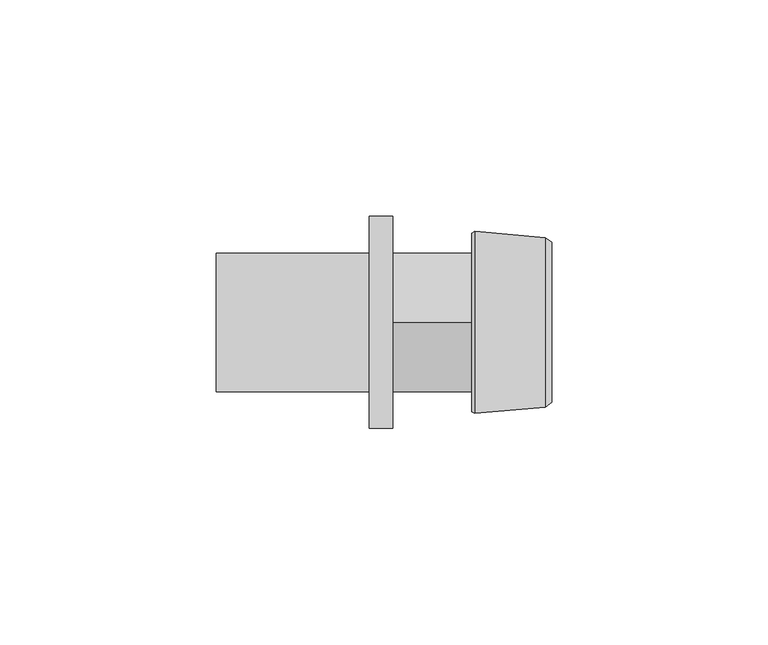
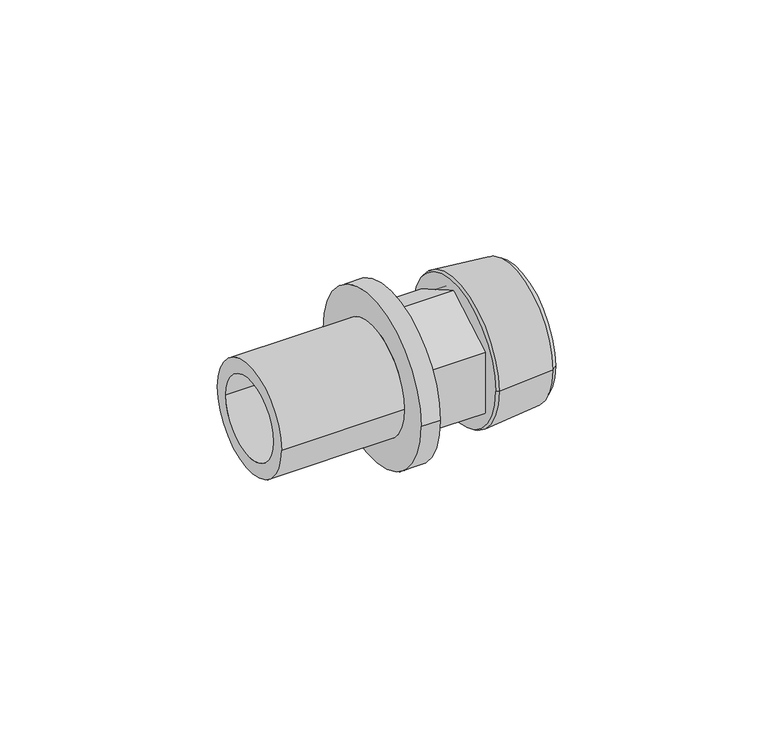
"""IFC4 building model written with IfcOpenShell, lengths in millimetres: pipe fitting geometry, RAUTITAN_Adapter_external_thread LX+G_LX : RTI A external LX+G_LX DE."""

from ifc_helpers import new_model, si_unit, frame, origin, place, context, project, spatial, polyline, circle_curve, outline, extrude, source, transform, mapped, element, save
from ifc_brep_helpers import plane_surface, cylinder_surface, revolved_surface, advanced_brep


def pipe_fitting_5de1917f(model_context):
    return source(origin(), model_context, "Body", "SolidModel", [
        advanced_brep(
        [(-5.5, 16.0, 0.0), (-5.5, -16.0, 0.0), (-40.83, -16.0, 0.0), (-40.83, 16.0, 0.0), (0.0, 24.5, 0.0), (0.0, -24.5, 0.0), (-5.5, -24.5, 0.0), (-5.5, 24.5, 0.0), (-40.83, 11.75, 0.0), (-40.83, -11.75, 0.0), (0.0, -11.75, 0.0), (0.0, 11.75, 0.0)],
        [
            (0, 1, circle_curve(frame((-5.5, 0.0, 0.0), z_axis=(-1.0, 0.0, 0.0), x_axis=(0.0, -1.0, 0.0)), 16.0)),
            (1, 2),
            (2, 3, circle_curve(frame((-40.83, 0.0, 0.0), z_axis=(1.0, 0.0, 0.0), x_axis=(0.0, -1.0, 0.0)), 16.0)),
            (3, 0),
            (4, 5, circle_curve(frame((0.0, 0.0, 0.0), z_axis=(-1.0, 0.0, 0.0), x_axis=(0.0, -1.0, 0.0)), 24.5)),
            (5, 6),
            (6, 7, circle_curve(frame((-5.5, 0.0, 0.0), z_axis=(1.0, 0.0, 0.0), x_axis=(0.0, -1.0, 0.0)), 24.5)),
            (7, 4),
            (8, 9, circle_curve(frame((-40.83, 0.0, 0.0), z_axis=(-1.0, 0.0, 0.0), x_axis=(0.0, -1.0, 0.0)), 11.75)),
            (9, 10),
            (10, 11, circle_curve(frame((0.0, 0.0, 0.0), z_axis=(1.0, 0.0, 0.0), x_axis=(0.0, -1.0, 0.0)), 11.75)),
            (11, 8),
            (2, 3, circle_curve(frame((-40.83, 0.0, 0.0), z_axis=(-1.0, 0.0, 0.0), x_axis=(0.0, 1.0, 0.0)), 16.0)),
            (8, 9, circle_curve(frame((-40.83, 0.0, 0.0), z_axis=(1.0, 0.0, 0.0), x_axis=(0.0, 1.0, 0.0)), 11.75)),
            (1, 0, circle_curve(frame((-5.5, 0.0, 0.0), z_axis=(-1.0, 0.0, 0.0), x_axis=(0.0, 1.0, 0.0)), 16.0)),
            (6, 7, circle_curve(frame((-5.5, 0.0, 0.0), z_axis=(-1.0, 0.0, 0.0), x_axis=(0.0, 1.0, 0.0)), 24.5)),
            (5, 4, circle_curve(frame((0.0, 0.0, 0.0), z_axis=(-1.0, 0.0, 0.0), x_axis=(0.0, 1.0, 0.0)), 24.5)),
            (10, 11, circle_curve(frame((0.0, 0.0, 0.0), z_axis=(-1.0, 0.0, 0.0), x_axis=(0.0, 1.0, 0.0)), 11.75)),
        ],
        [
            cylinder_surface(frame((0.0, 0.0, 0.0), z_axis=(1.0, 0.0, 0.0), x_axis=(0.0, -1.0, 0.0)), 16.0),
            cylinder_surface(frame((0.0, 0.0, 0.0), z_axis=(1.0, 0.0, 0.0), x_axis=(0.0, -1.0, 0.0)), 24.5),
            revolved_surface(polyline([(0.0, -11.75, 0.0), (-40.83, -11.75, 0.0)]), (0.0, 0.0, 0.0), (1.0, 0.0, 0.0)),
            plane_surface(frame((-40.83, 0.0, 0.0), z_axis=(-1.0, 0.0, 0.0), x_axis=(0.0, 1.0, 0.0))),
            cylinder_surface(frame((0.0, 0.0, 0.0), z_axis=(1.0, 0.0, 0.0), x_axis=(0.0, 1.0, 0.0)), 16.0),
            plane_surface(frame((-5.5, 0.0, 0.0), z_axis=(-1.0, 0.0, 0.0), x_axis=(0.0, 1.0, 0.0))),
            cylinder_surface(frame((0.0, 0.0, 0.0), z_axis=(1.0, 0.0, 0.0), x_axis=(0.0, 1.0, 0.0)), 24.5),
            plane_surface(frame((0.0, 0.0, 0.0), z_axis=(1.0, 0.0, 0.0), x_axis=(0.0, 1.0, 0.0))),
            revolved_surface(polyline([(0.0, 11.75, 0.0), (-40.83, 11.75, 0.0)]), (0.0, 0.0, 0.0), (1.0, 0.0, 0.0)),
        ],
        [
            (0, [[1, 2, 3, 4]]),
            (1, [[5, 6, 7, 8]]),
            (2, [[9, 10, 11, 12]]),
            (3, [[13, -3], [14, -9]]),
            (4, [[15, -4, -13, -2]]),
            (5, [[16, -7], [-15, -1]]),
            (6, [[17, -8, -16, -6]]),
            (7, [[-17, -5], [18, -11]]),
            (8, [[-14, -12, -18, -10]]),
        ],
    ),
        advanced_brep(
        [(19.2732803, 16.0, 0.0), (19.2732803, -16.0, 0.0), (36.67, -16.0, 0.0), (36.67, 16.0, 0.0), (18.17, 14.8967197, 0.0), (18.17, -14.8967197, 0.0), (18.9106902, 21.045, 0.0), (18.9106902, -21.045, 0.0), (18.17, -20.625, 0.0), (18.17, 20.625, 0.0), (35.1700007, 19.6, 0.0), (35.1700007, -19.6, 0.0), (36.67, 18.495, 0.0), (36.67, -18.495, 0.0)],
        [
            (0, 1, circle_curve(frame((19.2732803, 0.0, 0.0), z_axis=(-1.0, 0.0, 0.0), x_axis=(0.0, -1.0, 0.0)), 16.0)),
            (1, 2),
            (2, 3, circle_curve(frame((36.67, 0.0, 0.0), z_axis=(1.0, 0.0, 0.0), x_axis=(0.0, -1.0, 0.0)), 16.0)),
            (3, 0),
            (4, 5, circle_curve(frame((18.17, 0.0, 0.0), z_axis=(-1.0, 0.0, 0.0), x_axis=(0.0, -1.0, 0.0)), 14.8967197)),
            (5, 1),
            (0, 4),
            (6, 7, circle_curve(frame((18.9106902, 0.0, 0.0), z_axis=(-1.0, 0.0, 0.0), x_axis=(0.0, -1.0, 0.0)), 21.045)),
            (7, 8),
            (8, 9, circle_curve(frame((18.17, 0.0, 0.0), z_axis=(1.0, 0.0, 0.0), x_axis=(0.0, -1.0, 0.0)), 20.625)),
            (9, 6),
            (10, 11, circle_curve(frame((35.1700007, 0.0, 0.0), z_axis=(-1.0, 0.0, 0.0), x_axis=(0.0, -1.0, 0.0)), 19.6)),
            (11, 7),
            (6, 10),
            (12, 13, circle_curve(frame((36.67, 0.0, 0.0), z_axis=(-1.0, 0.0, 0.0), x_axis=(0.0, -1.0, 0.0)), 18.495)),
            (13, 11),
            (10, 12),
            (1, 0, circle_curve(frame((19.2732803, 0.0, 0.0), z_axis=(-1.0, 0.0, 0.0), x_axis=(0.0, 1.0, 0.0)), 16.0)),
            (3, 2, circle_curve(frame((36.67, 0.0, 0.0), z_axis=(1.0, 0.0, 0.0), x_axis=(0.0, 1.0, 0.0)), 16.0)),
            (5, 4, circle_curve(frame((18.17, 0.0, 0.0), z_axis=(-1.0, 0.0, 0.0), x_axis=(0.0, 1.0, 0.0)), 14.8967197)),
            (8, 9, circle_curve(frame((18.17, 0.0, 0.0), z_axis=(-1.0, 0.0, 0.0), x_axis=(0.0, 1.0, 0.0)), 20.625)),
            (7, 6, circle_curve(frame((18.9106902, 0.0, 0.0), z_axis=(-1.0, 0.0, 0.0), x_axis=(0.0, 1.0, 0.0)), 21.045)),
            (11, 10, circle_curve(frame((35.1700007, 0.0, 0.0), z_axis=(-1.0, 0.0, 0.0), x_axis=(0.0, 1.0, 0.0)), 19.6)),
            (13, 12, circle_curve(frame((36.67, 0.0, 0.0), z_axis=(-1.0, 0.0, 0.0), x_axis=(0.0, 1.0, 0.0)), 18.495)),
        ],
        [
            revolved_surface(polyline([(36.67, -16.0, 0.0), (19.2732803, -16.0, 0.0)]), (0.0, 0.0, 0.0), (1.0, 0.0, 0.0)),
            revolved_surface(polyline([(19.2732803, -16.0, 0.0), (18.17, -14.8967197, 0.0)]), (0.0, 0.0, 0.0), (1.0, 0.0, 0.0)),
            revolved_surface(polyline([(18.17, -20.625, 0.0), (18.9106902, -21.045, 0.0)]), (0.0, 0.0, 0.0), (1.0, 0.0, 0.0)),
            revolved_surface(polyline([(18.9106902, -21.045, 0.0), (35.1700007, -19.6, 0.0)]), (0.0, 0.0, 0.0), (1.0, 0.0, 0.0)),
            revolved_surface(polyline([(35.1700007, -19.6, 0.0), (36.67, -18.495, 0.0)]), (0.0, 0.0, 0.0), (1.0, 0.0, 0.0)),
            revolved_surface(polyline([(36.67, 16.0, 0.0), (19.2732803, 16.0, 0.0)]), (0.0, 0.0, 0.0), (1.0, 0.0, 0.0)),
            revolved_surface(polyline([(19.2732803, 16.0, 0.0), (18.17, 14.8967197, 0.0)]), (0.0, 0.0, 0.0), (1.0, 0.0, 0.0)),
            plane_surface(frame((18.17, 0.0, 0.0), z_axis=(-1.0, 0.0, 0.0), x_axis=(0.0, 1.0, 0.0))),
            revolved_surface(polyline([(18.17, 20.625, 0.0), (18.9106902, 21.045, 0.0)]), (0.0, 0.0, 0.0), (1.0, 0.0, 0.0)),
            revolved_surface(polyline([(18.9106902, 21.045, 0.0), (35.1700007, 19.6, 0.0)]), (0.0, 0.0, 0.0), (1.0, 0.0, 0.0)),
            revolved_surface(polyline([(35.1700007, 19.6, 0.0), (36.67, 18.495, 0.0)]), (0.0, 0.0, 0.0), (1.0, 0.0, 0.0)),
            plane_surface(frame((36.67, 0.0, 0.0), z_axis=(1.0, 0.0, 0.0), x_axis=(0.0, 1.0, 0.0))),
        ],
        [
            (0, [[1, 2, 3, 4]]),
            (1, [[5, 6, -1, 7]]),
            (2, [[8, 9, 10, 11]]),
            (3, [[12, 13, -8, 14]]),
            (4, [[15, 16, -12, 17]]),
            (5, [[18, -4, 19, -2]]),
            (6, [[20, -7, -18, -6]]),
            (7, [[21, -10], [-20, -5]]),
            (8, [[22, -11, -21, -9]]),
            (9, [[23, -14, -22, -13]]),
            (10, [[24, -17, -23, -16]]),
            (11, [[-24, -15], [-19, -3]]),
        ],
    ),
        extrude(outline(polyline([(-16.0, 9.2376043), (0.0, 18.4752086), (16.0, 9.2376043), (16.0, -9.2376043), (0.0, -18.4752086), (-16.0, -9.2376043), (-16.0, 9.2376043)])), frame((0.0, 0.0, 0.0), z_axis=(1.0, 0.0, 0.0), x_axis=(0.0, 1.0, 0.0)), (0.0, 0.0, 1.0), 18.17),
    ])


if __name__ == "__main__":
    model = new_model("IFC4")
    model_context = context("Model", 3, world=origin())
    ifc_project = project(units=[si_unit("LENGTHUNIT", "METRE", prefix="MILLI")], contexts=[model_context])
    site = spatial("IfcSite", under=ifc_project)
    building = spatial("IfcBuilding", under=site)
    placement = place(None, origin())
    pipe_fitting_shape = pipe_fitting_5de1917f(model_context)
    element("IfcPipeFitting", 1, ObjectType="RAUTITAN_Adapter_external_thread LX+G_LX : RTI A external LX+G_LX DE", at=placement, inside=building, context=model_context, shape_type="MappedRepresentation", body=[
        mapped(pipe_fitting_shape, transform((0.0, 0.0, 0.0), x_axis=(1.0, 0.0, 0.0), y_axis=(0.0, 1.0, 0.0), z_axis=(0.0, 0.0, 1.0))),
    ])
    save(model, "model.ifc")
